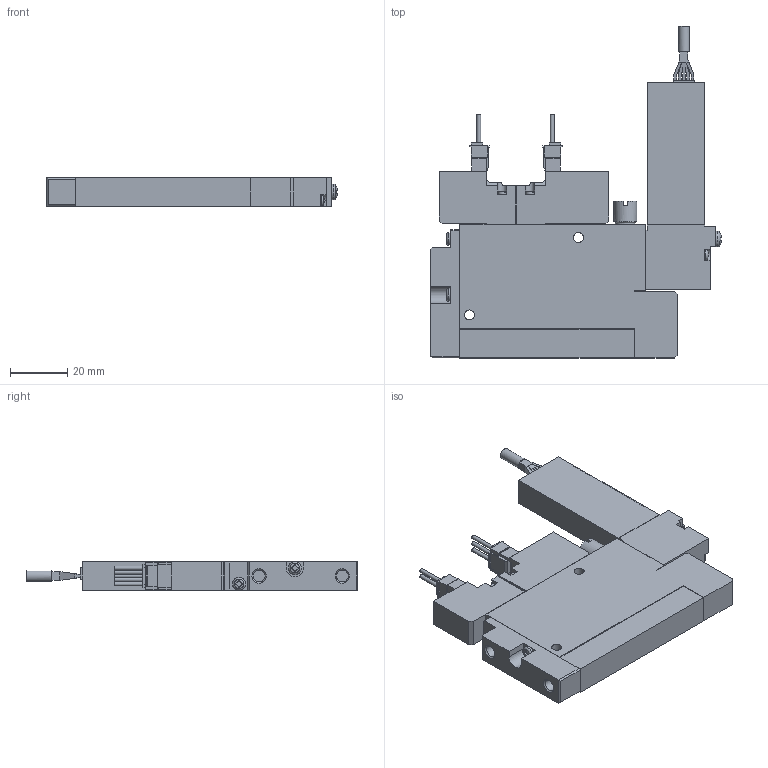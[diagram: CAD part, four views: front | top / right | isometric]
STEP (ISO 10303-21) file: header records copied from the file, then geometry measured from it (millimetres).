
FILE_DESCRIPTION(('STEP AP203'),'1');
FILE_NAME('5WC_3D.stp','2024-09-04T23:20:20',(' '),(' '),'Spatial InterOp 3D',' ',' ');
FILE_SCHEMA(('CONFIG_CONTROL_DESIGN'));
Length unit declared in the file: millimetre
Products named in the file (5): BSC1SXV9※5WC; Solenoid valve W; Pressure Sensor V9; Unit-C; BaseSC10R
Assembly tree (4 placements, depth 2):
  BSC1SXV9※5WC
    Solenoid valve W
    Pressure Sensor V9
    Unit-C
    BaseSC10R
Bounding box: 101.35 x 115.8 x 10 mm (x, y, z)
Volume: 62322.8 mm3; surface area: 21801 mm2
Topology: 4 solids, 4 shells, 431 faces, 1161 edges, 764 vertices
Faces by surface type: plane 343, cylinder 73, sphere 5, torus 5, cone 5
Full cylindrical faces by diameter (mm): 1.4 x5, 3 x4, 3.5 x8, 3.8 x1, 4.134 x4, 4.5 x2, 5.5 x2, 7 x1, 8 x1
Entity records: 13522 total; most frequent: CARTESIAN_POINT 2562, ORIENTED_EDGE 2204, DIRECTION 2150, EDGE_CURVE 1102, LINE 886, VECTOR 886, VERTEX_POINT 748, AXIS2_PLACEMENT_3D 632
